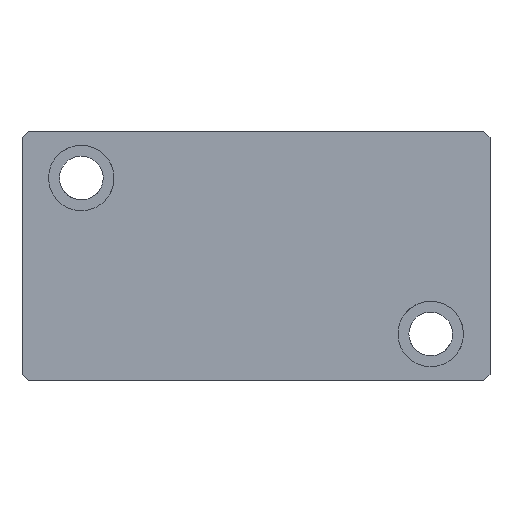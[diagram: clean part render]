
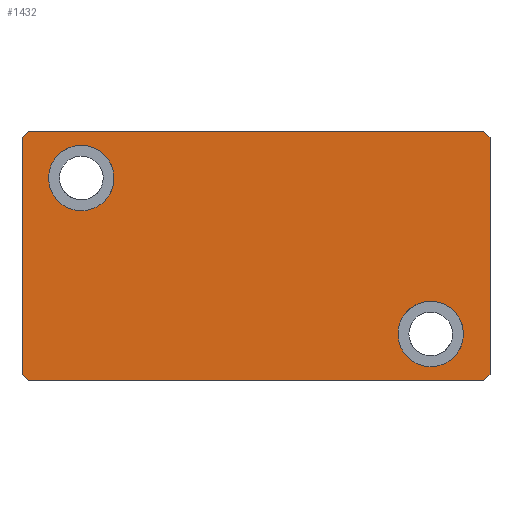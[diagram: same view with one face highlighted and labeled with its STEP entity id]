
A CAD part, front view. The second image highlights one B-rep face of the part: STEP entity #1432.
In plain terms, the highlighted planar face has unit normal (0, -1, 0).
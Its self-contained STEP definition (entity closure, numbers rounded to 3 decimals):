
#777=CARTESIAN_POINT('Vertex',(-36.5,0.,20.)) ;
#782=CARTESIAN_POINT('Line Origine',(0.,0.,20.)) ;
#786=CARTESIAN_POINT('Vertex',(36.5,0.,20.)) ;
#1247=CARTESIAN_POINT('Vertex',(-37.5,0.,19.)) ;
#1252=CARTESIAN_POINT('Line Origine',(-37.,0.,19.5)) ;
#1269=CARTESIAN_POINT('Axis2P3D Location',(0.,0.,0.)) ;
#1274=CARTESIAN_POINT('Line Origine',(-37.5,0.,0.)) ;
#1278=CARTESIAN_POINT('Vertex',(-37.5,0.,-19.)) ;
#1281=CARTESIAN_POINT('Line Origine',(-37.,0.,-19.5)) ;
#1285=CARTESIAN_POINT('Vertex',(-36.5,0.,-20.)) ;
#1288=CARTESIAN_POINT('Line Origine',(0.,0.,-20.)) ;
#1292=CARTESIAN_POINT('Vertex',(36.5,0.,-20.)) ;
#1295=CARTESIAN_POINT('Line Origine',(37.,0.,-19.5)) ;
#1299=CARTESIAN_POINT('Vertex',(37.5,0.,-19.)) ;
#1302=CARTESIAN_POINT('Line Origine',(37.5,0.,0.)) ;
#1306=CARTESIAN_POINT('Vertex',(37.5,0.,19.)) ;
#1309=CARTESIAN_POINT('Line Origine',(37.,0.,19.5)) ;
#1325=CARTESIAN_POINT('Control Point',(-32.607,0.,15.017)) ;
#1326=CARTESIAN_POINT('Control Point',(-32.338,0.,15.51)) ;
#1327=CARTESIAN_POINT('Control Point',(-32.003,0.,15.966)) ;
#1328=CARTESIAN_POINT('Control Point',(-31.609,0.,16.375)) ;
#1329=CARTESIAN_POINT('Control Point',(-30.721,0.,17.077)) ;
#1330=CARTESIAN_POINT('Control Point',(-29.679,0.,17.522)) ;
#1331=CARTESIAN_POINT('Control Point',(-29.132,0.,17.673)) ;
#1332=CARTESIAN_POINT('Control Point',(-28.009,0.,17.825)) ;
#1333=CARTESIAN_POINT('Control Point',(-26.887,0.,17.677)) ;
#1334=CARTESIAN_POINT('Control Point',(-26.338,0.,17.528)) ;
#1335=CARTESIAN_POINT('Control Point',(-25.295,0.,17.087)) ;
#1336=CARTESIAN_POINT('Control Point',(-24.405,0.,16.388)) ;
#1337=CARTESIAN_POINT('Control Point',(-24.009,0.,15.98)) ;
#1338=CARTESIAN_POINT('Control Point',(-23.336,0.,15.069)) ;
#1339=CARTESIAN_POINT('Control Point',(-22.926,0.,14.014)) ;
#1340=CARTESIAN_POINT('Control Point',(-22.793,0.,13.461)) ;
#1341=CARTESIAN_POINT('Control Point',(-22.685,0.,12.404)) ;
#1342=CARTESIAN_POINT('Control Point',(-22.841,0.,11.355)) ;
#1343=CARTESIAN_POINT('Control Point',(-22.971,0.,10.875)) ;
#1344=CARTESIAN_POINT('Control Point',(-23.157,0.,10.415)) ;
#1345=CARTESIAN_POINT('Control Point',(-23.393,0.,9.983)) ;
#1346=CARTESIAN_POINT('Vertex',(-32.607,0.,15.017)) ;
#1348=CARTESIAN_POINT('Vertex',(-23.393,0.,9.983)) ;
#1352=CARTESIAN_POINT('Control Point',(-23.393,0.,9.983)) ;
#1353=CARTESIAN_POINT('Control Point',(-23.662,0.,9.49)) ;
#1354=CARTESIAN_POINT('Control Point',(-23.997,0.,9.034)) ;
#1355=CARTESIAN_POINT('Control Point',(-24.391,0.,8.625)) ;
#1356=CARTESIAN_POINT('Control Point',(-25.279,0.,7.923)) ;
#1357=CARTESIAN_POINT('Control Point',(-26.321,0.,7.478)) ;
#1358=CARTESIAN_POINT('Control Point',(-26.868,0.,7.327)) ;
#1359=CARTESIAN_POINT('Control Point',(-27.991,0.,7.175)) ;
#1360=CARTESIAN_POINT('Control Point',(-29.113,0.,7.323)) ;
#1361=CARTESIAN_POINT('Control Point',(-29.662,0.,7.472)) ;
#1362=CARTESIAN_POINT('Control Point',(-30.705,0.,7.913)) ;
#1363=CARTESIAN_POINT('Control Point',(-31.595,0.,8.612)) ;
#1364=CARTESIAN_POINT('Control Point',(-31.991,0.,9.02)) ;
#1365=CARTESIAN_POINT('Control Point',(-32.664,0.,9.931)) ;
#1366=CARTESIAN_POINT('Control Point',(-33.074,0.,10.986)) ;
#1367=CARTESIAN_POINT('Control Point',(-33.207,0.,11.539)) ;
#1368=CARTESIAN_POINT('Control Point',(-33.315,0.,12.596)) ;
#1369=CARTESIAN_POINT('Control Point',(-33.159,0.,13.645)) ;
#1370=CARTESIAN_POINT('Control Point',(-33.029,0.,14.125)) ;
#1371=CARTESIAN_POINT('Control Point',(-32.843,0.,14.585)) ;
#1372=CARTESIAN_POINT('Control Point',(-32.607,0.,15.017)) ;
#1379=CARTESIAN_POINT('Control Point',(23.393,0.,-9.983)) ;
#1380=CARTESIAN_POINT('Control Point',(23.662,0.,-9.49)) ;
#1381=CARTESIAN_POINT('Control Point',(23.997,0.,-9.034)) ;
#1382=CARTESIAN_POINT('Control Point',(24.391,0.,-8.625)) ;
#1383=CARTESIAN_POINT('Control Point',(25.279,0.,-7.923)) ;
#1384=CARTESIAN_POINT('Control Point',(26.321,0.,-7.478)) ;
#1385=CARTESIAN_POINT('Control Point',(26.868,0.,-7.327)) ;
#1386=CARTESIAN_POINT('Control Point',(27.991,0.,-7.175)) ;
#1387=CARTESIAN_POINT('Control Point',(29.113,0.,-7.323)) ;
#1388=CARTESIAN_POINT('Control Point',(29.662,0.,-7.472)) ;
#1389=CARTESIAN_POINT('Control Point',(30.705,0.,-7.913)) ;
#1390=CARTESIAN_POINT('Control Point',(31.595,0.,-8.612)) ;
#1391=CARTESIAN_POINT('Control Point',(31.991,0.,-9.02)) ;
#1392=CARTESIAN_POINT('Control Point',(32.664,0.,-9.931)) ;
#1393=CARTESIAN_POINT('Control Point',(33.074,0.,-10.986)) ;
#1394=CARTESIAN_POINT('Control Point',(33.207,0.,-11.539)) ;
#1395=CARTESIAN_POINT('Control Point',(33.315,0.,-12.596)) ;
#1396=CARTESIAN_POINT('Control Point',(33.159,0.,-13.645)) ;
#1397=CARTESIAN_POINT('Control Point',(33.029,0.,-14.125)) ;
#1398=CARTESIAN_POINT('Control Point',(32.843,0.,-14.585)) ;
#1399=CARTESIAN_POINT('Control Point',(32.607,0.,-15.017)) ;
#1400=CARTESIAN_POINT('Vertex',(23.393,0.,-9.983)) ;
#1402=CARTESIAN_POINT('Vertex',(32.607,0.,-15.017)) ;
#1406=CARTESIAN_POINT('Control Point',(32.607,0.,-15.017)) ;
#1407=CARTESIAN_POINT('Control Point',(32.338,0.,-15.51)) ;
#1408=CARTESIAN_POINT('Control Point',(32.003,0.,-15.966)) ;
#1409=CARTESIAN_POINT('Control Point',(31.609,0.,-16.375)) ;
#1410=CARTESIAN_POINT('Control Point',(30.721,0.,-17.077)) ;
#1411=CARTESIAN_POINT('Control Point',(29.679,0.,-17.522)) ;
#1412=CARTESIAN_POINT('Control Point',(29.132,0.,-17.673)) ;
#1413=CARTESIAN_POINT('Control Point',(28.009,0.,-17.825)) ;
#1414=CARTESIAN_POINT('Control Point',(26.887,0.,-17.677)) ;
#1415=CARTESIAN_POINT('Control Point',(26.338,0.,-17.528)) ;
#1416=CARTESIAN_POINT('Control Point',(25.295,0.,-17.087)) ;
#1417=CARTESIAN_POINT('Control Point',(24.405,0.,-16.388)) ;
#1418=CARTESIAN_POINT('Control Point',(24.009,0.,-15.98)) ;
#1419=CARTESIAN_POINT('Control Point',(23.336,0.,-15.069)) ;
#1420=CARTESIAN_POINT('Control Point',(22.926,0.,-14.014)) ;
#1421=CARTESIAN_POINT('Control Point',(22.793,0.,-13.461)) ;
#1422=CARTESIAN_POINT('Control Point',(22.685,0.,-12.404)) ;
#1423=CARTESIAN_POINT('Control Point',(22.841,0.,-11.355)) ;
#1424=CARTESIAN_POINT('Control Point',(22.971,0.,-10.875)) ;
#1425=CARTESIAN_POINT('Control Point',(23.157,0.,-10.415)) ;
#1426=CARTESIAN_POINT('Control Point',(23.393,0.,-9.983)) ;
#783=DIRECTION('Vector Direction',(-1.,0.,0.)) ;
#1253=DIRECTION('Vector Direction',(0.707,0.,0.707)) ;
#1270=DIRECTION('Axis2P3D Direction',(0.,1.,0.)) ;
#1271=DIRECTION('Axis2P3D XDirection',(-1.,0.,0.)) ;
#1275=DIRECTION('Vector Direction',(0.,0.,-1.)) ;
#1282=DIRECTION('Vector Direction',(-0.707,0.,0.707)) ;
#1289=DIRECTION('Vector Direction',(1.,0.,0.)) ;
#1296=DIRECTION('Vector Direction',(0.707,0.,0.707)) ;
#1303=DIRECTION('Vector Direction',(0.,0.,1.)) ;
#1310=DIRECTION('Vector Direction',(0.707,0.,-0.707)) ;
#1272=AXIS2_PLACEMENT_3D('Plane Axis2P3D',#1269,#1270,#1271) ;
#1315=ORIENTED_EDGE('',*,*,#1280,.F.) ;
#1316=ORIENTED_EDGE('',*,*,#1287,.F.) ;
#1317=ORIENTED_EDGE('',*,*,#1294,.F.) ;
#1318=ORIENTED_EDGE('',*,*,#1301,.F.) ;
#1319=ORIENTED_EDGE('',*,*,#1308,.F.) ;
#1320=ORIENTED_EDGE('',*,*,#1313,.F.) ;
#1321=ORIENTED_EDGE('',*,*,#788,.F.) ;
#1322=ORIENTED_EDGE('',*,*,#1256,.F.) ;
#1375=ORIENTED_EDGE('',*,*,#1350,.T.) ;
#1376=ORIENTED_EDGE('',*,*,#1373,.T.) ;
#1429=ORIENTED_EDGE('',*,*,#1404,.T.) ;
#1430=ORIENTED_EDGE('',*,*,#1427,.T.) ;
#1377=FACE_BOUND('',#1374,.T.) ;
#1431=FACE_BOUND('',#1428,.T.) ;
#784=VECTOR('Line Direction',#783,1.) ;
#1254=VECTOR('Line Direction',#1253,1.) ;
#1276=VECTOR('Line Direction',#1275,1.) ;
#1283=VECTOR('Line Direction',#1282,1.) ;
#1290=VECTOR('Line Direction',#1289,1.) ;
#1297=VECTOR('Line Direction',#1296,1.) ;
#1304=VECTOR('Line Direction',#1303,1.) ;
#1311=VECTOR('Line Direction',#1310,1.) ;
#1432=ADVANCED_FACE('',(#1323,#1377,#1431),#1273,.F.) ;
#1324=B_SPLINE_CURVE_WITH_KNOTS('',5,(#1325,#1326,#1327,#1328,#1329,#1330,#1331,#1332,#1333,#1334,#1335,#1336,#1337,#1338,#1339,#1340,#1341,#1342,#1343,#1344,#1345),.UNSPECIFIED.,.F.,.U.,(6,3,3,3,3,3,6),(0.,3.969,7.937,11.906,15.874,19.843,23.325),.UNSPECIFIED.) ;
#1351=B_SPLINE_CURVE_WITH_KNOTS('',5,(#1352,#1353,#1354,#1355,#1356,#1357,#1358,#1359,#1360,#1361,#1362,#1363,#1364,#1365,#1366,#1367,#1368,#1369,#1370,#1371,#1372),.UNSPECIFIED.,.F.,.U.,(6,3,3,3,3,3,6),(0.,3.969,7.937,11.906,15.874,19.843,23.325),.UNSPECIFIED.) ;
#1378=B_SPLINE_CURVE_WITH_KNOTS('',5,(#1379,#1380,#1381,#1382,#1383,#1384,#1385,#1386,#1387,#1388,#1389,#1390,#1391,#1392,#1393,#1394,#1395,#1396,#1397,#1398,#1399),.UNSPECIFIED.,.F.,.U.,(6,3,3,3,3,3,6),(0.,3.969,7.937,11.906,15.874,19.843,23.325),.UNSPECIFIED.) ;
#1405=B_SPLINE_CURVE_WITH_KNOTS('',5,(#1406,#1407,#1408,#1409,#1410,#1411,#1412,#1413,#1414,#1415,#1416,#1417,#1418,#1419,#1420,#1421,#1422,#1423,#1424,#1425,#1426),.UNSPECIFIED.,.F.,.U.,(6,3,3,3,3,3,6),(0.,3.969,7.937,11.906,15.874,19.843,23.325),.UNSPECIFIED.) ;
#788=EDGE_CURVE('',#778,#787,#785,.F.) ;
#1256=EDGE_CURVE('',#1248,#778,#1255,.T.) ;
#1280=EDGE_CURVE('',#1279,#1248,#1277,.F.) ;
#1287=EDGE_CURVE('',#1286,#1279,#1284,.T.) ;
#1294=EDGE_CURVE('',#1293,#1286,#1291,.F.) ;
#1301=EDGE_CURVE('',#1300,#1293,#1298,.F.) ;
#1308=EDGE_CURVE('',#1307,#1300,#1305,.F.) ;
#1313=EDGE_CURVE('',#787,#1307,#1312,.T.) ;
#1350=EDGE_CURVE('',#1347,#1349,#1324,.T.) ;
#1373=EDGE_CURVE('',#1349,#1347,#1351,.T.) ;
#1404=EDGE_CURVE('',#1401,#1403,#1378,.T.) ;
#1427=EDGE_CURVE('',#1403,#1401,#1405,.T.) ;
#1314=EDGE_LOOP('',(#1315,#1316,#1317,#1318,#1319,#1320,#1321,#1322)) ;
#1374=EDGE_LOOP('',(#1375,#1376)) ;
#1428=EDGE_LOOP('',(#1429,#1430)) ;
#1323=FACE_OUTER_BOUND('',#1314,.T.) ;
#785=LINE('Line',#782,#784) ;
#1255=LINE('Line',#1252,#1254) ;
#1277=LINE('Line',#1274,#1276) ;
#1284=LINE('Line',#1281,#1283) ;
#1291=LINE('Line',#1288,#1290) ;
#1298=LINE('Line',#1295,#1297) ;
#1305=LINE('Line',#1302,#1304) ;
#1312=LINE('Line',#1309,#1311) ;
#1273=PLANE('Plane',#1272) ;
#778=VERTEX_POINT('',#777) ;
#787=VERTEX_POINT('',#786) ;
#1248=VERTEX_POINT('',#1247) ;
#1279=VERTEX_POINT('',#1278) ;
#1286=VERTEX_POINT('',#1285) ;
#1293=VERTEX_POINT('',#1292) ;
#1300=VERTEX_POINT('',#1299) ;
#1307=VERTEX_POINT('',#1306) ;
#1347=VERTEX_POINT('',#1346) ;
#1349=VERTEX_POINT('',#1348) ;
#1401=VERTEX_POINT('',#1400) ;
#1403=VERTEX_POINT('',#1402) ;
